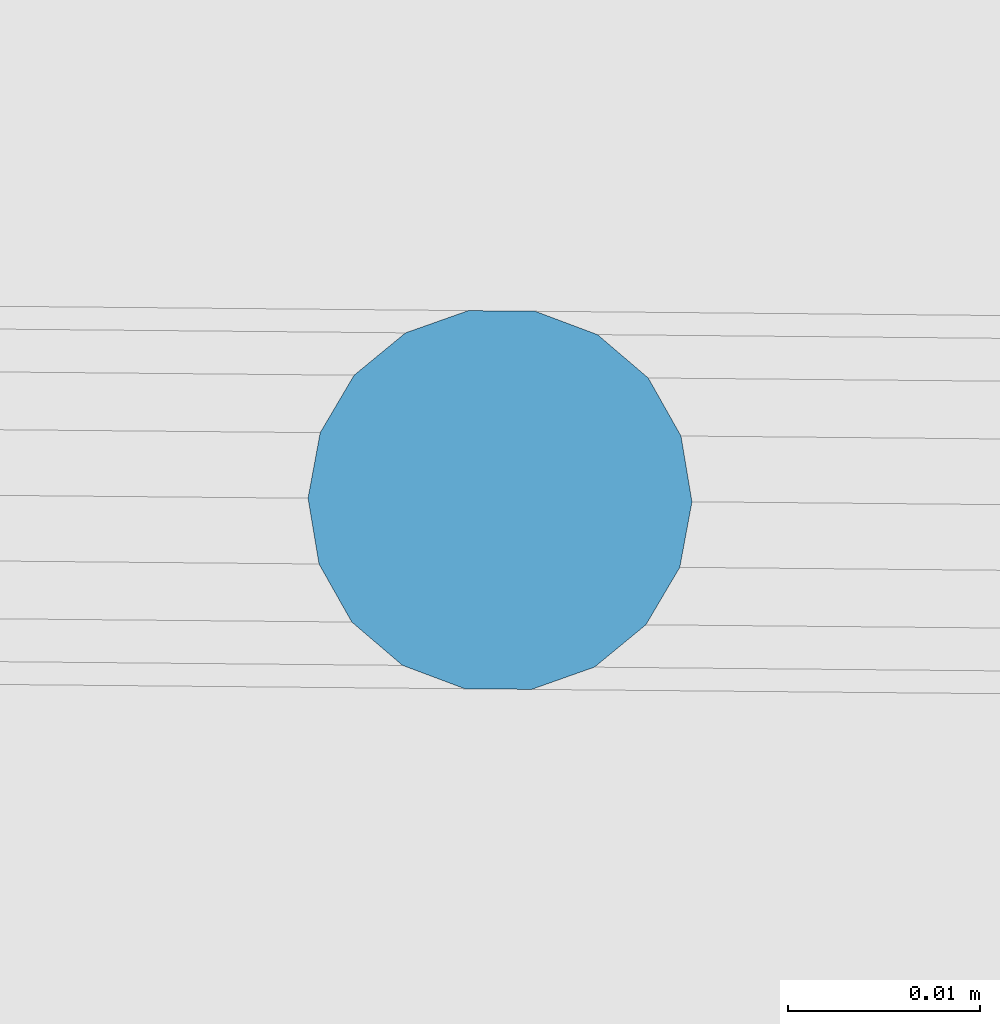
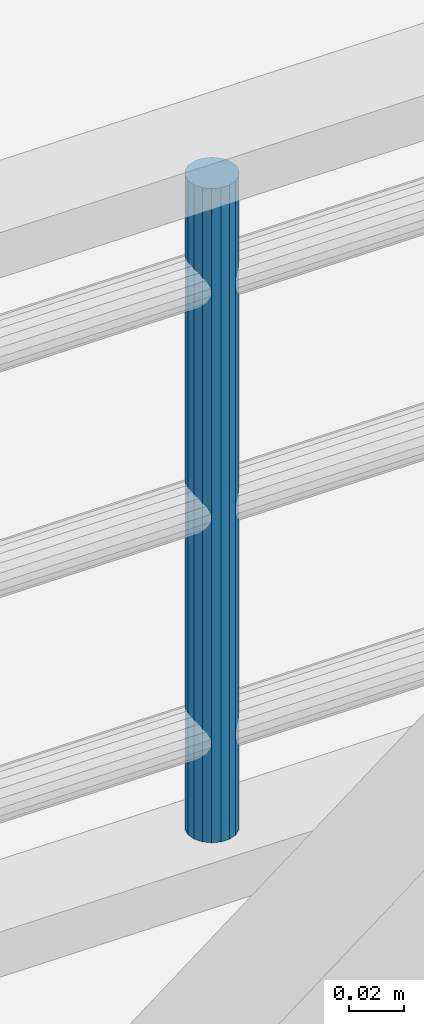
# One storey, part 25 of 66: 1 member, 1 element without a shape of its own.
"""IFC2X3 building model written with IfcOpenShell, lengths in centimetres."""

from ifc_helpers import new_model, entity, si_unit, converted_unit, direction, frame, origin, origin_with_axes, place, context, subcontext, project, spatial, faceted_brep, material, type_object, element, aggregate, save


model = new_model("IFC2X3")

# Units and contexts
model_context = context("Model", 3, precision=0.0001, world=origin(), true_north=direction((0.225632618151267, 0.974212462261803, 0.0)))
body_context = subcontext(model_context, "Body", "Model", "MODEL_VIEW")
ifc_project = project(units=[si_unit("LENGTHUNIT", "METRE", prefix="CENTI"), si_unit("AREAUNIT", "SQUARE_METRE", prefix="CENTI"), si_unit("VOLUMEUNIT", "CUBIC_METRE", prefix="CENTI"), converted_unit("PLANEANGLEUNIT", "DEGREE", entity("IfcRatioMeasure", 0.0174532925), si_unit("PLANEANGLEUNIT", "RADIAN"), dimensions=[0, 0, 0, 0, 0, 0, 0])], contexts=[model_context])

# Site, building, storey
site_placement = place(None, origin_with_axes())
site = spatial("IfcSite", under=ifc_project, at=site_placement, Name="Default Site", CompositionType="ELEMENT")
building_placement = place(site_placement, origin_with_axes())
building = spatial("IfcBuilding", under=site, at=building_placement, Name="Default Building", CompositionType="ELEMENT")
storey_placement = place(building_placement, frame((0.0, 0.0, 477.795358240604), z_axis=(0.0, 0.0, 1.0), x_axis=(1.0, 0.0, 0.0)))
storey = spatial("IfcBuildingStorey", under=building, at=storey_placement, Name="Niveau 1", CompositionType="ELEMENT", Elevation=477.795358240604)

# Assembly, member
building_element_proxy_type = type_object("IfcBuildingElementProxyType", Name="Type Object", PredefinedType="NOTDEFINED")
assembly_placement = place(storey_placement, frame((1081.09889200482, -848.13, 9.99999999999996), z_axis=(0.0, 0.0, 1.0), x_axis=(-0.999957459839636, 0.00922380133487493, 0.0)))
assembly = element("IfcElementAssembly", 1, at=assembly_placement, inside=storey, type_object=building_element_proxy_type, Name="Panneau 1702007", ObjectType="Precast panel", PredefinedType="USERDEFINED")
ifc_material = material(Name="Aluminium satiné")
member_placement = place(assembly_placement, frame((27.4396926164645, 0.342020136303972, 31.0000002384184), z_axis=(0.0, 0.0, 1.0), x_axis=(0.500002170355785, -0.866024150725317, 0.0)))
member = element("IfcMember", 2, at=member_placement, material=ifc_material, Name="4294967037", context=body_context, shape_type="Brep", body=[
    faceted_brep([(-1.05748743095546e-12, -5.41233724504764e-13, 4.21884749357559e-13), (-0.34729687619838, -4.69069227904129e-13, 4.21884749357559e-13), (-0.673647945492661, -0.118779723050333, 4.21884749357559e-13), (-0.939693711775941, -0.342018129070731, 4.21884749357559e-13), (-1.11334216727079, -0.642784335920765, 4.21884749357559e-13), (-1.17365112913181, -0.984805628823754, 4.21884749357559e-13), (-1.11334356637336, -1.32682410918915, 4.21884749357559e-13), (-0.93969663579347, -1.62759289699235, 4.21884749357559e-13), (-0.673653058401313, -1.8508318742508, 4.21884749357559e-13), (-0.347301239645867, -1.96961451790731, 4.21884749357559e-13), (-4.36344854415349e-06, -1.96961451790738, 4.21884749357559e-13), (0.326346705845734, -1.85083479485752, 4.21884749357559e-13), (0.592392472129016, -1.62759638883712, 4.21884749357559e-13), (0.766040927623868, -1.32683018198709, 4.21884749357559e-13), (0.826349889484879, -0.984808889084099, 4.21884749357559e-13), (0.766042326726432, -0.642790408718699, 4.21884749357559e-13), (0.592395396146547, -0.342021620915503, 4.21884749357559e-13), (0.326351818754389, -0.118782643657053, 4.21884749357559e-13), (0.326351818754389, -0.118782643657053, -29.0000002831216), (0.592395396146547, -0.342021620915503, -29.0000002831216), (0.766042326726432, -0.642790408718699, -29.0000002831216), (0.826349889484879, -0.984808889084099, -29.0000002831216), (0.766040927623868, -1.32683018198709, -29.0000002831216), (0.592392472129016, -1.62759638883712, -29.0000002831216), (0.326346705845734, -1.85083479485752, -29.0000002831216), (-4.36344854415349e-06, -1.96961451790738, -29.0000002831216), (-0.347301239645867, -1.96961451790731, -29.0000002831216), (-0.673653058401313, -1.8508318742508, -29.0000002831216), (-0.93969663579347, -1.62759289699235, -29.0000002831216), (-1.11334356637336, -1.32682410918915, -29.0000002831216), (-1.17365112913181, -0.984805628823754, -29.0000002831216), (-1.11334216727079, -0.642784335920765, -29.0000002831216), (-0.939693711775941, -0.342018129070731, -29.0000002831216), (-0.673647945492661, -0.118779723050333, -29.0000002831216), (-0.34729687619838, -4.69069227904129e-13, -29.0000002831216), (-1.05748743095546e-12, -5.41233724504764e-13, -29.0000002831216), (0.592395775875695, -0.342021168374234, 4.21884749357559e-13), (0.592395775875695, -0.342021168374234, -29.0000002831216), (0.766043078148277, -0.642789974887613, 4.21884749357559e-13), (0.766043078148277, -0.642789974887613, -29.0000002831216), (0.826348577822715, -0.98480912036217, 4.21884749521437e-13), (0.826348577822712, -0.98480912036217, -29.0000002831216), (0.766042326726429, -0.6427904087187, -29.0000002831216), (0.766041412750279, -1.32683026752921, 4.21884749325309e-13), (0.766041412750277, -1.32683026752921, -29.0000002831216), (0.826349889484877, -0.984808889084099, -29.0000002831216), (0.592392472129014, -1.62759638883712, 4.21884749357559e-13), (0.592392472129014, -1.62759638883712, -29.0000002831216), (0.326346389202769, -1.8508344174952, 4.21884749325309e-13), (0.32634638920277, -1.8508344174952, -29.0000002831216), (0.592392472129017, -1.62759638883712, -29.0000002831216), (-3.90791641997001e-06, -1.96961576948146, 4.21884749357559e-13), (-3.90791641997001e-06, -1.96961576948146, -29.0000002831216), (-0.347301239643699, -1.96961365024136, 4.21884749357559e-13), (-0.347301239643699, -1.96961365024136, -29.0000002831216), (-0.67365285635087, -1.85083131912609, 4.21884749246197e-13), (-0.673652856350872, -1.85083131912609, -29.0000002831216), (-0.347301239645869, -1.96961451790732, -29.0000002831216), (-0.939697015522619, -1.62759334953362, 4.21884749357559e-13), (-0.939697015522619, -1.62759334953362, -29.0000002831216), (-1.1133443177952, -1.32682454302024, 4.21884749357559e-13), (-1.1133443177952, -1.32682454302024, -29.0000002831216), (-1.17364981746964, -0.984805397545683, 4.21884749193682e-13), (-1.17364981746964, -0.984805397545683, -29.0000002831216), (-1.11334265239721, -0.642784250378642, 4.2188474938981e-13), (-1.11334265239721, -0.642784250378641, -29.0000002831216), (-0.939693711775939, -0.342018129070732, 4.21884749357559e-13), (-0.939693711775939, -0.342018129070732, -29.0000002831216), (-0.673647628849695, -0.118780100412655, 4.2188474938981e-13), (-0.673647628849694, -0.118780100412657, -29.0000002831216), (-0.93969371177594, -0.342018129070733, -29.0000002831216), (-0.347297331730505, 1.25157360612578e-06, 4.21884749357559e-13), (-0.347297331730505, 1.25157360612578e-06, -29.0000002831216), (-3.22521284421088e-12, -8.67666491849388e-07, 4.21884749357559e-13), (-3.22521284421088e-12, -8.67666491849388e-07, -29.0000002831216), (0.326351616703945, -0.118783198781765, 4.21884749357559e-13), (0.326351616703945, -0.118783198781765, -29.0000002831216)], [[[0, 1, 2, 3, 4, 5, 6, 7, 8, 9, 10, 11, 12, 13, 14, 15, 16, 17]], [[18, 19, 20, 21, 22, 23, 24, 25, 26, 27, 28, 29, 30, 31, 32, 33, 34, 35]], [[17, 36, 37, 18]], [[16, 38, 39, 19]], [[15, 40, 41, 42]], [[14, 43, 44, 45]], [[13, 46, 47, 22]], [[12, 48, 49, 50]], [[11, 51, 52, 24]], [[10, 53, 54, 25]], [[9, 55, 56, 57]], [[8, 58, 59, 27]], [[7, 60, 61, 28]], [[6, 62, 63, 29]], [[5, 64, 65, 30]], [[4, 66, 67, 31]], [[3, 68, 69, 70]], [[2, 71, 72, 33]], [[1, 73, 74, 34]], [[0, 75, 76, 35]]]),
])
aggregate(assembly, [member])

save(model, "model.ifc")
